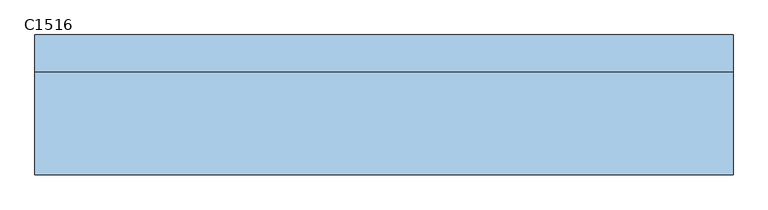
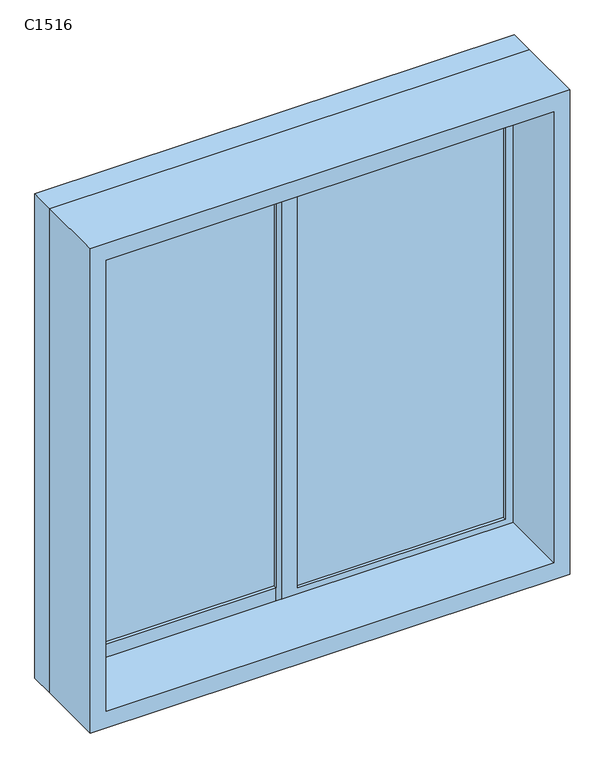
"""IFC4 building model written with IfcOpenShell, lengths in millimetres: window geometry, 推拉窗6 : C1516."""

from ifc_helpers import new_model, si_unit, frame, origin, place, context, project, spatial, polyline, outline, extrude, source, transform, mapped, element, save


def c1516_b00368ec(model_context):
    return source(origin(), model_context, "Body", "SweptSolid", [
        extrude(outline(polyline([(-665.475, 53.1265625), (-15.475, 53.1265625), (-15.475, 43.1265625), (-665.475, 43.1265625), (-665.475, 53.1265625)])), frame((0.0, 0.0, 975.0), z_axis=(0.0, 0.0, 1.0), x_axis=(1.0, 0.0, 0.0)), (0.0, 0.0, 1.0), 1450.0),
        extrude(outline(polyline([(34.525, 23.1265625), (684.525, 23.1265625), (684.525, 13.1265625), (34.525, 13.1265625), (34.525, 23.1265625)])), frame((0.0, 0.0, 975.0), z_axis=(0.0, 0.0, 1.0), x_axis=(1.0, 0.0, 0.0)), (0.0, 0.0, 1.0), 1450.0),
        extrude(outline(polyline([(2500.0, -740.475), (900.0, -740.475), (900.0, 759.525), (2500.0, 759.525), (2500.0, -740.475)]), holes=[polyline([(2445.0, 709.525), (955.0, 709.525), (955.0, -690.475), (2445.0, -690.475), (2445.0, 709.525)])]), frame((0.0, -216.8734375, 0.0), z_axis=(0.0, 1.0, 0.0), x_axis=(0.0, 0.0, 1.0)), (0.0, 0.0, 1.0), 220.0),
        extrude(outline(polyline([(925.0, 34.525), (2475.0, 34.525), (2475.0, -715.475), (925.0, -715.475), (925.0, 34.525)]), holes=[polyline([(975.0, -15.475), (975.0, -665.475), (2425.0, -665.475), (2425.0, -15.475), (975.0, -15.475)])]), frame((0.0, 33.1265625, 0.0), z_axis=(0.0, 1.0, 0.0), x_axis=(0.0, 0.0, 1.0)), (0.0, 0.0, 1.0), 30.0),
        extrude(outline(polyline([(2475.0, -15.475), (925.0, -15.475), (925.0, 734.525), (2475.0, 734.525), (2475.0, -15.475)]), holes=[polyline([(2425.0, 34.525), (2425.0, 684.525), (975.0, 684.525), (975.0, 34.525), (2425.0, 34.525)])]), frame((0.0, 3.1265625, 0.0), z_axis=(0.0, 1.0, 0.0), x_axis=(0.0, 0.0, 1.0)), (0.0, 0.0, 1.0), 30.0),
        extrude(outline(polyline([(2500.0, -740.475), (900.0, -740.475), (900.0, 759.525), (2500.0, 759.525), (2500.0, -740.475)]), holes=[polyline([(925.0, -715.475), (2475.0, -715.475), (2475.0, 734.525), (925.0, 734.525), (925.0, -715.475)])]), frame((0.0, 3.1265625, 0.0), z_axis=(0.0, 1.0, 0.0), x_axis=(0.0, 0.0, 1.0)), (0.0, 0.0, 1.0), 80.0),
    ])


if __name__ == "__main__":
    model = new_model("IFC4")
    model_context = context("Model", 3, world=origin())
    ifc_project = project(units=[si_unit("LENGTHUNIT", "METRE", prefix="MILLI")], contexts=[model_context])
    site = spatial("IfcSite", under=ifc_project)
    building = spatial("IfcBuilding", under=site)
    placement = place(None, origin())
    c1516_shape = c1516_b00368ec(model_context)
    element("IfcWindow", 1, ObjectType="推拉窗6 : C1516", at=placement, inside=building, context=model_context, shape_type="MappedRepresentation", body=[
        mapped(c1516_shape, transform((0.0, 0.0, 0.0), x_axis=(1.0, 0.0, 0.0), y_axis=(0.0, 1.0, 0.0), z_axis=(0.0, 0.0, 1.0))),
    ])
    save(model, "model.ifc")
